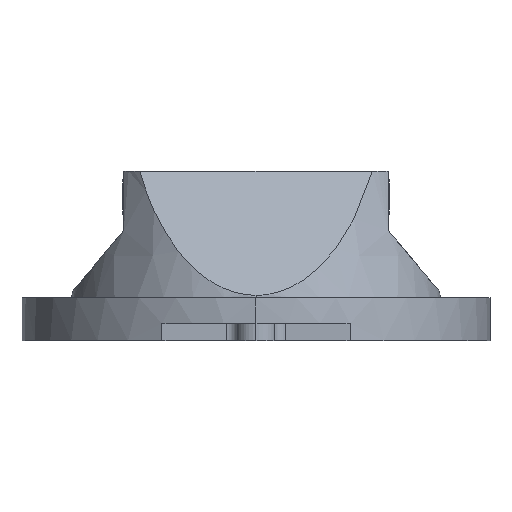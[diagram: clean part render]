
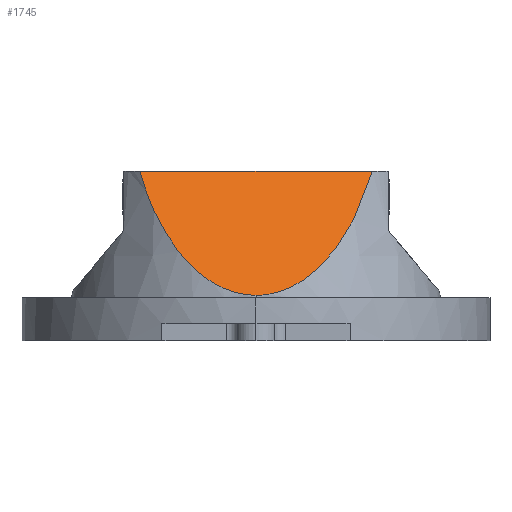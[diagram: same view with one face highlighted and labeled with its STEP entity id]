
A CAD part, left-side view. The second image highlights one B-rep face of the part: STEP entity #1745.
In plain terms, the highlighted planar face has unit normal (-0.848, 0, 0.53).
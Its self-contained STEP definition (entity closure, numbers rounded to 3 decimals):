
#100 = EDGE_CURVE ( 'NONE', #6379, #6738, #6595, .T. ) ;
#441 = CARTESIAN_POINT ( 'NONE',  ( -62.865, 68.595, 100. ) ) ;
#590 = CARTESIAN_POINT ( 'NONE',  ( -108.602, 0., 26.805 ) ) ;
#764 = CARTESIAN_POINT ( 'NONE',  ( -62.865, -138., 100. ) ) ;
#1050 = DIRECTION ( 'NONE',  ( 0., 1., 0. ) ) ;
#1084 = CARTESIAN_POINT ( 'NONE',  ( -108.602, -30.048, 26.805 ) ) ;
#1248 = VECTOR ( 'NONE', #1050, 1000. ) ;
#1424 = ORIENTED_EDGE ( 'NONE', *, *, #2951, .T. ) ;
#1544 =( BOUNDED_CURVE ( )  B_SPLINE_CURVE ( 3, ( #5726, #2599, #1084, #3136 ),
 .UNSPECIFIED., .F., .T. ) 
 B_SPLINE_CURVE_WITH_KNOTS ( ( 4, 4 ),
 ( 5.163, 6.283 ),
 .UNSPECIFIED. ) 
 CURVE ( )  GEOMETRIC_REPRESENTATION_ITEM ( )  RATIONAL_B_SPLINE_CURVE ( ( 1., 0.898, 0.898, 1. ) ) 
 REPRESENTATION_ITEM ( '' )  );
#1745 = ADVANCED_FACE ( 'NONE', ( #5262 ), #2364, .F. ) ;
#1893 = CARTESIAN_POINT ( 'NONE',  ( -108.602, 30.048, 26.805 ) ) ;
#2281 = LINE ( 'NONE', #4619, #1248 ) ;
#2364 = PLANE ( 'NONE',  #2446 ) ;
#2446 = AXIS2_PLACEMENT_3D ( 'NONE', #764, #4440, #4884 ) ;
#2599 = CARTESIAN_POINT ( 'NONE',  ( -91.628, -55.506, 53.97 ) ) ;
#2795 = CARTESIAN_POINT ( 'NONE',  ( -108.602, 0., 26.805 ) ) ;
#2951 = EDGE_CURVE ( 'NONE', #5420, #6738, #2281, .T. ) ;
#3122 = ORIENTED_EDGE ( 'NONE', *, *, #100, .F. ) ;
#3136 = CARTESIAN_POINT ( 'NONE',  ( -108.602, 0., 26.805 ) ) ;
#3346 = CARTESIAN_POINT ( 'NONE',  ( -62.865, -68.595, 100. ) ) ;
#3376 = ORIENTED_EDGE ( 'NONE', *, *, #3377, .F. ) ;
#3377 = EDGE_CURVE ( 'NONE', #5420, #6379, #1544, .T. ) ;
#3724 = EDGE_LOOP ( 'NONE', ( #3376, #1424, #3122 ) ) ;
#4440 = DIRECTION ( 'NONE',  ( 0.848, 0., -0.53 ) ) ;
#4452 = CARTESIAN_POINT ( 'NONE',  ( -62.865, 68.595, 100. ) ) ;
#4619 = CARTESIAN_POINT ( 'NONE',  ( -62.865, 0., 100. ) ) ;
#4884 = DIRECTION ( 'NONE',  ( -0.53, 0., -0.848 ) ) ;
#5262 = FACE_OUTER_BOUND ( 'NONE', #3724, .T. ) ;
#5420 = VERTEX_POINT ( 'NONE', #3346 ) ;
#5494 = CARTESIAN_POINT ( 'NONE',  ( -91.628, 55.506, 53.97 ) ) ;
#5726 = CARTESIAN_POINT ( 'NONE',  ( -62.865, -68.595, 100. ) ) ;
#6379 = VERTEX_POINT ( 'NONE', #590 ) ;
#6595 =( BOUNDED_CURVE ( )  B_SPLINE_CURVE ( 3, ( #2795, #1893, #5494, #4452 ),
 .UNSPECIFIED., .F., .F. ) 
 B_SPLINE_CURVE_WITH_KNOTS ( ( 4, 4 ),
 ( 0., 1.12 ),
 .UNSPECIFIED. ) 
 CURVE ( )  GEOMETRIC_REPRESENTATION_ITEM ( )  RATIONAL_B_SPLINE_CURVE ( ( 1., 0.898, 0.898, 1. ) ) 
 REPRESENTATION_ITEM ( '' )  );
#6738 = VERTEX_POINT ( 'NONE', #441 ) ;
